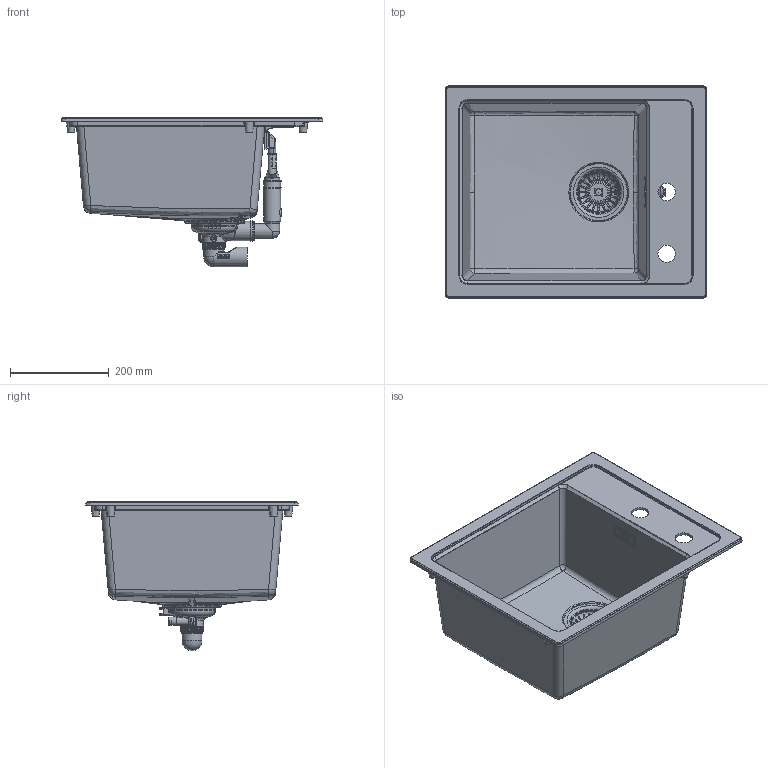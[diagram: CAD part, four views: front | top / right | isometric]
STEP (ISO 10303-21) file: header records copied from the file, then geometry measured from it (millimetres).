
FILE_DESCRIPTION(/* description */ ('SID 610-40'),/* implementation_level */ '2;1');
FILE_NAME(/* name */ 'N:\GLOB_FKI_Product_Information\Sinks_Bowls\Franke\Product Information Colored Sinks\Verkaufsunterlagen\Tectonite\Sirius\SID 610 40\3D stp\SID_610_40.stp',/* time_stamp */ '2018-03-05T13:57:08+01:00',/* author */ ('AM049'),/* organization */ (''),/* preprocessor_version */ 'ST-DEVELOPER v16.1',/* originating_system */ 'Autodesk Inventor 2016',/* authorisation */ '');
FILE_SCHEMA (('AUTOMOTIVE_DESIGN { 1 0 10303 214 3 1 1 }'));
Length unit declared in the file: millimetre
Products named in the file (1): 0056-218310
Bounding box: 530 x 430 x 303 mm (x, y, z)
Volume: 2675443.5 mm3; surface area: 1154854.9 mm2
Topology: 22 solids, 26 shells, 5710 faces, 15171 edges, 9589 vertices
Faces by surface type: plane 2789, bspline 1602, cylinder 672, torus 341, cone 231, sphere 75
Full cylindrical faces by diameter (mm): 3.242 x1, 4 x1, 4.5 x2, 4.7 x1, 4.85 x1, 5.2 x1, 5.25 x1, 5.85 x2, 6 x5, 6.01 x1, 6.2 x1, 8 x4, 8.25 x1, 9 x2, 12 x1, 12.5 x9, 12.6 x1, 13.743 x1, 14.3 x1, 16 x1, 16.941 x1, 26 x2, 27 x1, 30 x3, 33.75 x1, 34 x2, 35 x2, 36.5 x1, 39 x2, 40 x2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
Entity records: 220147 total; most frequent: CARTESIAN_POINT 83667, ORIENTED_EDGE 29522, DIRECTION 22863, EDGE_CURVE 14746, VERTEX_POINT 9503, LINE 7833, VECTOR 7833, AXIS2_PLACEMENT_3D 7515
